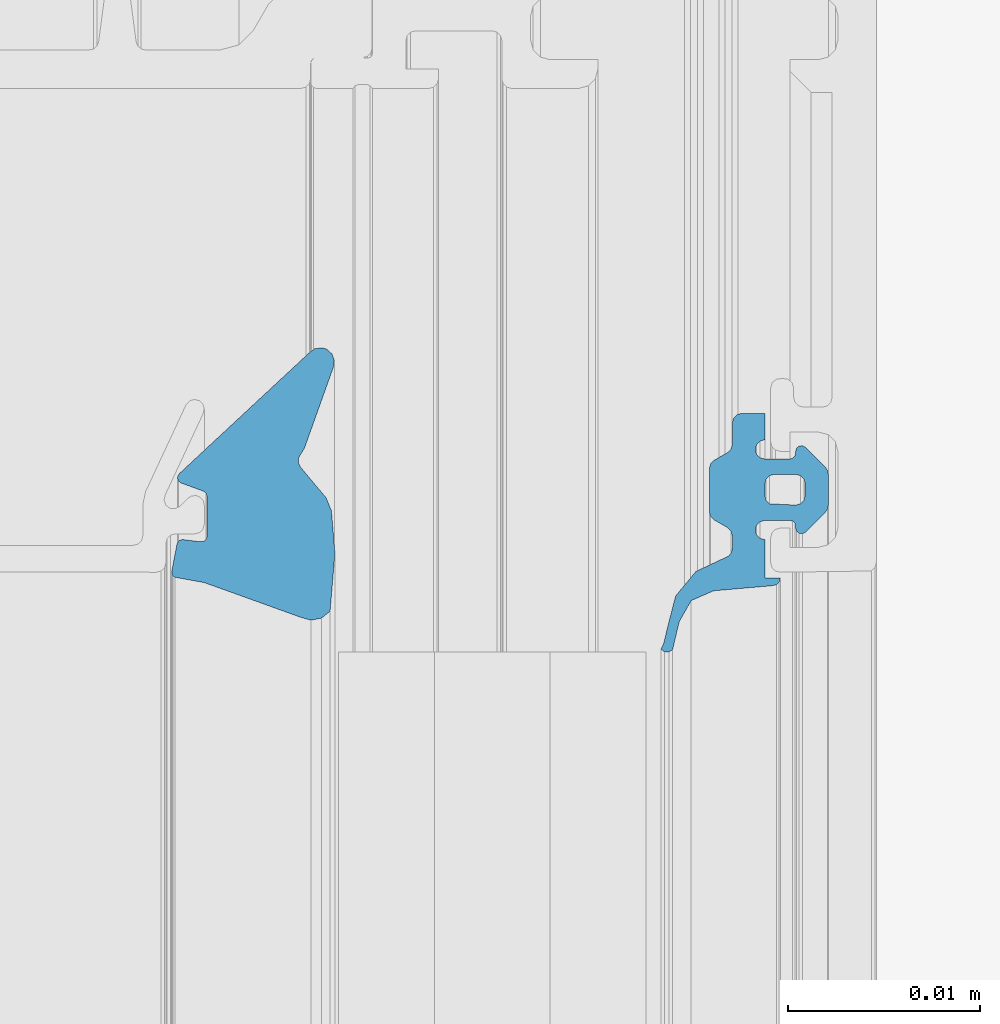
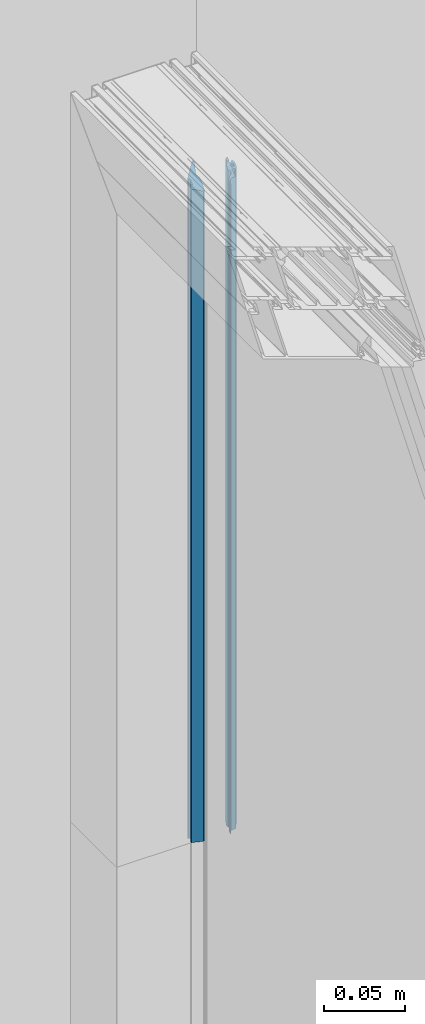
# One storey, part 29 of 89: 1 building element part, 2 elements without a shape of their own.
"""IFC2X3 building model written with IfcOpenShell, lengths in millimetres."""

from ifc_helpers import new_model, entity, si_unit, converted_unit, derived_unit, money_unit, direction, frame, origin_with_axes, place, context, subcontext, project, spatial, faceted_brep, source, transform, mapped, material, type_object, element, aggregate, save


model = new_model("IFC2X3")

# Units and contexts
model_context = context("Model", 3, precision=0.01, world=origin_with_axes(), true_north=direction((0.0, 1.0)))
body_context = subcontext(model_context, "Body", "Model", "MODEL_VIEW")
ifc_project = project(units=[si_unit("LENGTHUNIT", "METRE", prefix="MILLI"), si_unit("AREAUNIT", "SQUARE_METRE"), si_unit("VOLUMEUNIT", "CUBIC_METRE"), converted_unit("PLANEANGLEUNIT", "DEGREE", entity("IfcPlaneAngleMeasure", 0.0174532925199), si_unit("PLANEANGLEUNIT", "RADIAN"), dimensions=[0, 0, 0, 0, 0, 0, 0]), si_unit("SOLIDANGLEUNIT", "STERADIAN"), money_unit("EUR"), converted_unit("TIMEUNIT", "Year", entity("IfcTimeMeasure", 31556926.0), si_unit("TIMEUNIT", "SECOND"), dimensions=[0, 0, 1, 0, 0, 0, 0]), si_unit("MASSUNIT", "GRAM", prefix="KILO"), si_unit("THERMODYNAMICTEMPERATUREUNIT", "DEGREE_CELSIUS"), si_unit("LUMINOUSINTENSITYUNIT", "LUMEN"), si_unit("ENERGYUNIT", "JOULE", prefix="MEGA"), derived_unit("THERMALCONDUCTANCEUNIT", [(si_unit("POWERUNIT", "WATT"), 1), (si_unit("LENGTHUNIT", "METRE"), -1), (si_unit("THERMODYNAMICTEMPERATUREUNIT", "KELVIN"), -1)]), derived_unit("SPECIFICHEATCAPACITYUNIT", [(si_unit("ENERGYUNIT", "JOULE"), 1), (si_unit("MASSUNIT", "GRAM", prefix="KILO"), -1), (si_unit("THERMODYNAMICTEMPERATUREUNIT", "KELVIN"), -1)]), derived_unit("MASSDENSITYUNIT", [(si_unit("MASSUNIT", "GRAM", prefix="KILO"), 1), (si_unit("VOLUMEUNIT", "CUBIC_METRE"), -1)])], contexts=[model_context])

# Site, building, storey
site_placement = place(None, origin_with_axes())
site = spatial("IfcSite", under=ifc_project, at=site_placement, Name="Puškini 31, Narva", CompositionType="ELEMENT")
building_placement = place(site_placement, origin_with_axes())
building = spatial("IfcBuilding", under=site, at=building_placement, Name="Narva Riigigümnaasium", CompositionType="ELEMENT")
storey_placement = place(building_placement, frame((0.0, 0.0, -3300.0), z_axis=(0.0, 0.0, 1.0), x_axis=(1.0, 0.0, 0.0)))
storey = spatial("IfcBuildingStorey", under=building, at=storey_placement, Name="1.korrus -3.3", CompositionType="ELEMENT", Elevation=-3300.0)

# Curtain wall, member, building element part
curtain_wall_type = type_object("IfcCurtainWallType", Name="Curtain Wall Type", PredefinedType="NOTDEFINED")
curtain_wall_placement = place(storey_placement, frame((34855.0104166, 221770.599999, -2.45869391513e-05), z_axis=(0.0, 0.0, 1.0), x_axis=(1.0, 0.0, 0.0)))
curtain_wall = element("IfcCurtainWall", 1, at=curtain_wall_placement, inside=storey, type_object=curtain_wall_type, Name="G-SKLF-08")
member_type = type_object("IfcMemberType", Name="61 x 45", PredefinedType="MULLION")
member_placement = place(curtain_wall_placement, frame((-0.00873769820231, 2029.40000644, 2400.00002459), z_axis=(0.0, 0.0, 1.0), x_axis=(4.3055573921e-06, -0.999999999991, 0.0)))
member = element("IfcMember", 2, at=member_placement, type_object=member_type, Name="G-SKLF-08-raam", ObjectType="MULLION")
aggregate(curtain_wall, [member])
ifc_material = material(Name="Membraan - Veekindel")
shared_shape = source(origin_with_axes(), body_context, "Body", "Brep", [
    faceted_brep([(61.0413385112, 34.3890442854, -1.80386372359e-07), (59.5800222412, 34.73794757, -1.80386372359e-07), (59.5800222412, 34.73794757, 490.419961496), (61.0413385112, 34.3890442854, 488.958645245), (61.1536677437, 34.1934467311, -1.80386372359e-07), (61.1423164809, 33.9681748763, -1.80386372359e-07), (61.0108941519, 33.784859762, -1.80386372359e-07), (60.7381535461, 33.9217644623, -1.80386372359e-07), (59.8409257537, 34.1343131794, -1.80386372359e-07), (58.2346494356, 34.5489145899, -1.80386372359e-07), (56.9567944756, 35.6067920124, -1.80386372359e-07), (56.2495873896, 37.1074172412, -1.80386372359e-07), (56.1542959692, 37.3107917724, -1.80386372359e-07), (55.9795989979, 37.4519392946, -1.80386372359e-07), (55.7607444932, 37.5023809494, -1.80386372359e-07), (55.1093263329, 37.5023809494, -1.80386372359e-07), (54.8593263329, 37.4353936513, -1.80386372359e-07), (54.676313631, 37.2523809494, -1.80386372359e-07), (54.2721684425, 36.5523809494, -1.80386372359e-07), (54.0891557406, 36.3693682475, -1.80386372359e-07), (53.8391557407, 36.3023809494, -1.80386372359e-07), (51.602145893, 36.3023809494, -1.80386372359e-07), (51.352145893, 36.3693682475, -1.80386372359e-07), (51.1691331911, 36.5523809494, -1.80386372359e-07), (50.7649880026, 37.2523809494, -1.80386372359e-07), (50.5819753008, 37.4353936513, -1.80386372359e-07), (50.3319753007, 37.5023809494, -1.80386372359e-07), (49.2206527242, 37.5023809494, -1.80386372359e-07), (48.9706527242, 37.5693682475, -1.80386372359e-07), (48.7876400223, 37.7523809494, -1.80386372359e-07), (48.7206527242, 38.0023809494, -1.80386372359e-07), (48.7206527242, 39.1999494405, -1.80386372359e-07), (50.10004, 39.1999494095, -1.80386372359e-07), (50.1670287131, 38.9499497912, -1.80386372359e-07), (50.3500424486, 38.7669381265, -1.80386372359e-07), (50.6000428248, 38.699952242, -1.80386372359e-07), (50.8500424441, 38.7669409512, -1.80386372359e-07), (51.0330541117, 38.9499546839, -1.80386372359e-07), (51.10004, 39.1999550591, -1.80386372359e-07), (51.10004, 40.4999366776, -1.80386372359e-07), (51.0598476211, 40.6499366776, -1.80386372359e-07), (50.95004, 40.7597442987, -1.80386372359e-07), (50.80004, 40.7999366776, -1.80386372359e-07), (50.7000457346, 40.7999366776, -1.80386372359e-07), (50.5334025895, 40.8504763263, -1.80386372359e-07), (50.4229059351, 40.9850671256, -1.80386372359e-07), (50.4057850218, 41.1583618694, -1.80386372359e-07), (50.4878083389, 41.3119729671, -1.80386372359e-07), (51.5281601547, 42.3533311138, -1.80386372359e-07), (51.6904310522, 42.4618421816, -1.80386372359e-07), (51.8818844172, 42.4999486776, -1.80386372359e-07), (53.517932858, 42.4999486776, -1.80386372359e-07), (53.7093558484, 42.4618547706, -1.80386372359e-07), (53.8716106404, 42.3533776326, -1.80386372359e-07), (54.9122350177, 41.3120206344, -1.80386372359e-07), (54.9942836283, 41.1584047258, -1.80386372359e-07), (54.9771753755, 40.9850924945, -1.80386372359e-07), (54.866675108, 40.850483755, -1.80386372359e-07), (54.7000173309, 40.7999366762, -1.80386372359e-07), (54.6000210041, 40.7999366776, -1.80386372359e-07), (54.4500210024, 40.7597443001, -1.80386372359e-07), (54.3402133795, 40.6499366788, -1.80386372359e-07), (54.300021, 40.4999366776, -1.80386372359e-07), (54.300021, 39.1999606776, -1.80386372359e-07), (54.3670082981, 38.9499606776, -1.80386372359e-07), (54.5500210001, 38.7669479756, -1.80386372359e-07), (54.8000210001, 38.6999606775, -1.80386372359e-07), (55.0500210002, 38.7669479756, -1.80386372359e-07), (55.2330337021, 38.9499606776, -1.80386372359e-07), (55.3000210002, 39.1999606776, -1.80386372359e-07), (57.3000022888, 39.1999494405, -1.80386372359e-07), (57.3000022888, 39.9999846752, -1.80386372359e-07), (57.5000161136, 39.946391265, -1.80386372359e-07), (57.6464370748, 39.799971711, -1.80386372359e-07), (57.7000324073, 39.5999584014, -1.80386372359e-07), (57.9693613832, 36.5265882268, -1.80386372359e-07), (58.4755028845, 35.3628499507, -1.80386372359e-07), (53.5000340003, 40.7999553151, -1.80386372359e-07), (53.4330491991, 41.0499459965, -1.80386372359e-07), (53.2500433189, 41.2329518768, -1.80386372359e-07), (53.0000526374, 41.299936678, -1.80386372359e-07), (52.4000083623, 41.299936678, -1.80386372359e-07), (52.150017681, 41.2329518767, -1.80386372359e-07), (51.9670118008, 41.0499459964, -1.80386372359e-07), (51.9000269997, 40.799955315, -1.80386372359e-07), (51.9000269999, 39.6999268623, -1.80386372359e-07), (51.9670129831, 39.4499317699, -1.80386372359e-07), (52.1500220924, 39.2669226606, -1.80386372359e-07), (52.4000171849, 39.1999366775, -1.80386372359e-07), (53.0000438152, 39.1999366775, -1.80386372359e-07), (53.2500389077, 39.2669226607, -1.80386372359e-07), (53.433048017, 39.44993177, -1.80386372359e-07), (58.4755028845, 35.3628499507, 491.524480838), (57.9693613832, 36.5265882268, 492.030622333), (57.7000324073, 39.5999584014, 492.299951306), (57.6464370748, 39.799971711, 492.353546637), (57.5000161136, 39.946391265, 492.499967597), (57.3000022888, 39.9999846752, 492.699981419), (57.3000022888, 39.1999494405, 492.699981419), (55.3000210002, 39.1999606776, 494.699962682), (55.2330337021, 38.9499606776, 494.766949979), (55.0500210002, 38.7669479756, 494.949962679), (54.8000210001, 38.6999606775, 495.199962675), (54.5500210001, 38.7669479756, 495.449962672), (54.3670082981, 38.9499606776, 495.632975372), (54.300021, 39.1999606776, 495.699962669), (54.300021, 40.4999366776, 495.699962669), (54.3402133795, 40.6499366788, 495.65977029), (54.4500210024, 40.7597443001, 495.549962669), (54.6000210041, 40.7999366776, 495.399962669), (54.7000173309, 40.7999366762, 495.299966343), (54.866675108, 40.850483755, 495.133308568), (54.9771753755, 40.9850924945, 495.022808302), (54.9942836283, 41.1584047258, 495.00570005), (54.9122350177, 41.3120206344, 495.087748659), (53.8716106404, 42.3533776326, 496.128373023), (53.7093558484, 42.4618547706, 496.290627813), (53.517932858, 42.4999486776, 496.482050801), (51.8818844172, 42.4999486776, 498.118099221), (51.6904310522, 42.4618421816, 498.309552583), (51.5281601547, 42.3533311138, 498.471823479), (50.4878083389, 41.3119729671, 499.512175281), (50.4057850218, 41.1583618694, 499.594198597), (50.4229059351, 40.9850671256, 499.577077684), (50.5334025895, 40.8504763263, 499.466581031), (50.7000457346, 40.7999366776, 499.299937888), (50.80004, 40.7999366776, 499.199943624), (50.95004, 40.7597442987, 499.049943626), (51.0598476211, 40.6499366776, 498.940136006), (51.10004, 40.4999366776, 498.899943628), (51.10004, 39.1999550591, 498.899943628), (51.0330541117, 38.9499546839, 498.966929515), (50.8500424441, 38.7669409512, 499.14994118), (50.6000428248, 38.699952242, 499.399940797), (50.3500424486, 38.7669381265, 499.649941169), (50.1670287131, 38.9499497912, 499.832954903), (50.10004, 39.1999494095, 499.899943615), (48.7206527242, 39.1999494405, 501.279330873), (48.7206527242, 38.0023809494, 501.279330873), (48.7876400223, 37.7523809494, 501.212343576), (48.9706527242, 37.5693682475, 501.029330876), (49.2206527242, 37.5023809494, 500.779330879), (50.3319753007, 37.5023809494, 499.668008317), (50.5819753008, 37.4353936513, 499.41800832), (50.7649880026, 37.2523809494, 499.234995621), (51.1691331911, 36.5523809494, 498.830850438), (51.352145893, 36.3693682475, 498.647837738), (51.602145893, 36.3023809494, 498.397837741), (53.8391557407, 36.3023809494, 496.160827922), (54.0891557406, 36.3693682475, 495.910827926), (54.2721684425, 36.5523809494, 495.727815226), (54.676313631, 37.2523809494, 495.323670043), (54.8593263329, 37.4353936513, 495.140657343), (55.1093263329, 37.5023809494, 494.890657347), (55.7607444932, 37.5023809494, 494.239239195), (55.9795989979, 37.4519392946, 494.020384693), (56.1542959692, 37.3107917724, 493.845687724), (56.2495873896, 37.1074172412, 493.750396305), (56.9567944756, 35.6067920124, 493.043189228), (58.2346494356, 34.5489145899, 491.765334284), (59.8409257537, 34.1343131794, 490.159057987), (60.7381535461, 33.9217644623, 489.261830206), (61.0108941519, 33.784859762, 488.989089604), (61.1423164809, 33.9681748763, 488.857667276), (61.1536677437, 34.1934467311, 488.846316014), (53.5000340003, 40.7999553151, 496.499949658), (53.433048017, 39.44993177, 496.566935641), (53.2500389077, 39.2669226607, 496.749944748), (53.0000438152, 39.1999366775, 496.999939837), (52.4000171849, 39.1999366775, 497.59996646), (52.1500220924, 39.2669226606, 497.849961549), (51.9670129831, 39.4499317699, 498.032970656), (51.9000269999, 39.6999268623, 498.099956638), (51.9000269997, 40.799955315, 498.099956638), (51.9670118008, 41.0499459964, 498.032971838), (52.150017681, 41.2329518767, 497.84996596), (52.4000083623, 41.299936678, 497.599975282), (53.0000526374, 41.299936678, 496.999931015), (53.2500433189, 41.2329518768, 496.749940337), (53.4330491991, 41.0499459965, 496.566934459)], [[[0, 1, 2, 3]], [[0, 4, 5, 6, 7, 8, 9, 10, 11, 12, 13, 14, 15, 16, 17, 18, 19, 20, 21, 22, 23, 24, 25, 26, 27, 28, 29, 30, 31, 32, 33, 34, 35, 36, 37, 38, 39, 40, 41, 42, 43, 44, 45, 46, 47, 48, 49, 50, 51, 52, 53, 54, 55, 56, 57, 58, 59, 60, 61, 62, 63, 64, 65, 66, 67, 68, 69, 70, 71, 72, 73, 74, 75, 76, 1], [77, 78, 79, 80, 81, 82, 83, 84, 85, 86, 87, 88, 89, 90, 91]], [[1, 76, 92, 2]], [[3, 2, 92, 93, 94, 95, 96, 97, 98, 99, 100, 101, 102, 103, 104, 105, 106, 107, 108, 109, 110, 111, 112, 113, 114, 115, 116, 117, 118, 119, 120, 121, 122, 123, 124, 125, 126, 127, 128, 129, 130, 131, 132, 133, 134, 135, 136, 137, 138, 139, 140, 141, 142, 143, 144, 145, 146, 147, 148, 149, 150, 151, 152, 153, 154, 155, 156, 157, 158, 159, 160, 161, 162, 163, 164], [165, 166, 167, 168, 169, 170, 171, 172, 173, 174, 175, 176, 177, 178, 179]], [[4, 0, 3, 164]], [[5, 4, 164, 163]], [[6, 5, 163, 162]], [[7, 6, 162, 161]], [[8, 7, 161, 160]], [[9, 8, 160, 159]], [[10, 9, 159, 158]], [[11, 10, 158, 157]], [[12, 11, 157, 156]], [[13, 12, 156, 155]], [[14, 13, 155, 154]], [[15, 14, 154, 153]], [[16, 15, 153, 152]], [[17, 16, 152, 151]], [[18, 17, 151, 150]], [[19, 18, 150, 149]], [[20, 19, 149, 148]], [[21, 20, 148, 147]], [[22, 21, 147, 146]], [[23, 22, 146, 145]], [[24, 23, 145, 144]], [[25, 24, 144, 143]], [[26, 25, 143, 142]], [[27, 26, 142, 141]], [[28, 27, 141, 140]], [[29, 28, 140, 139]], [[30, 29, 139, 138]], [[31, 30, 138, 137]], [[32, 31, 137, 136]], [[33, 32, 136, 135]], [[34, 33, 135, 134]], [[35, 34, 134, 133]], [[36, 35, 133, 132]], [[37, 36, 132, 131]], [[38, 37, 131, 130]], [[39, 38, 130, 129]], [[40, 39, 129, 128]], [[41, 40, 128, 127]], [[42, 41, 127, 126]], [[43, 42, 126, 125]], [[44, 43, 125, 124]], [[45, 44, 124, 123]], [[46, 45, 123, 122]], [[47, 46, 122, 121]], [[48, 47, 121, 120]], [[49, 48, 120, 119]], [[50, 49, 119, 118]], [[51, 50, 118, 117]], [[52, 51, 117, 116]], [[53, 52, 116, 115]], [[54, 53, 115, 114]], [[55, 54, 114, 113]], [[56, 55, 113, 112]], [[57, 56, 112, 111]], [[58, 57, 111, 110]], [[59, 58, 110, 109]], [[60, 59, 109, 108]], [[61, 60, 108, 107]], [[62, 61, 107, 106]], [[63, 62, 106, 105]], [[64, 63, 105, 104]], [[65, 64, 104, 103]], [[66, 65, 103, 102]], [[67, 66, 102, 101]], [[68, 67, 101, 100]], [[69, 68, 100, 99]], [[70, 69, 99, 98]], [[71, 70, 98, 97]], [[72, 71, 97, 96]], [[73, 72, 96, 95]], [[74, 73, 95, 94]], [[75, 74, 94, 93]], [[76, 75, 93, 92]], [[78, 77, 165, 179]], [[79, 78, 179, 178]], [[80, 79, 178, 177]], [[81, 80, 177, 176]], [[82, 81, 176, 175]], [[83, 82, 175, 174]], [[84, 83, 174, 173]], [[85, 84, 173, 172]], [[86, 85, 172, 171]], [[87, 86, 171, 170]], [[88, 87, 170, 169]], [[89, 88, 169, 168]], [[90, 89, 168, 167]], [[91, 90, 167, 166]], [[77, 91, 166, 165]]]),
    faceted_brep([(59.0307115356, 16.554149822, -1.80386372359e-07), (55.9926715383, 16.8063498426, -1.80386372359e-07), (55.9926715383, 16.8063498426, 494.007312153), (59.0307115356, 16.554149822, 490.969272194), (59.3884652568, 16.1092618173, -1.80386372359e-07), (59.5001582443, 15.5494067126, -1.80386372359e-07), (59.3405112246, 15.0012955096, -1.80386372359e-07), (57.5418652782, 10.0035930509, -1.80386372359e-07), (57.2632233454, 8.46932121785, -1.80386372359e-07), (57.1824204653, 8.36745448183, -1.80386372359e-07), (57.0661058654, 8.3093438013, -1.80386372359e-07), (56.9361285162, 8.30590490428, -1.80386372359e-07), (55.5361285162, 8.57803733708, -1.80386372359e-07), (55.4168250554, 8.62997353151, -1.80386372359e-07), (55.3307332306, 8.72753828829, -1.80386372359e-07), (55.2940485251, 8.85237785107, -1.80386372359e-07), (55.4099827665, 9.81272116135, -1.80386372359e-07), (55.3838261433, 9.9780831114, -1.80386372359e-07), (55.2731258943, 10.1036784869, -1.80386372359e-07), (55.1123574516, 10.1503930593, -1.80386372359e-07), (53.0580290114, 10.1503930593, -1.80386372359e-07), (52.8859560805, 10.0961386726, -1.80386372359e-07), (52.7761212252, 9.95299910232, -1.80386372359e-07), (52.3556584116, 8.79778701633, -1.80386372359e-07), (52.2574645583, 8.66326410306, -1.80386372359e-07), (52.1026310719, 8.60190419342, -1.80386372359e-07), (51.938943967, 8.6326446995, -1.80386372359e-07), (51.8169217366, 8.74599822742, -1.80386372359e-07), (45.6142070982, 15.4144760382, -1.80386372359e-07), (45.3418968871, 15.7688623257, -1.80386372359e-07), (45.3195226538, 16.2152275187, -1.80386372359e-07), (45.3889077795, 16.3899097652, -1.80386372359e-07), (45.6241929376, 16.6482027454, -1.80386372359e-07), (45.950966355, 16.7718696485, -1.80386372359e-07), (46.298307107, 16.7340705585, -1.80386372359e-07), (50.5536994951, 15.2121179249, -1.80386372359e-07), (50.8437237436, 15.0307134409, -1.80386372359e-07), (51.0558924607, 14.9074036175, -1.80386372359e-07), (51.3011765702, 14.8998814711, -1.80386372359e-07), (51.5205025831, 15.0099586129, -1.80386372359e-07), (53.1225200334, 16.3483062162, -1.80386372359e-07), (53.7899070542, 16.6230039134, -1.80386372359e-07), (53.7899070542, 16.6230039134, 496.210076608), (53.1225200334, 16.3483062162, 496.87746362), (51.5205025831, 15.0099586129, 498.47948105), (51.3011765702, 14.8998814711, 498.69880706), (51.0558924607, 14.9074036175, 498.944091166), (50.8437237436, 15.0307134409, 499.156259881), (50.5536994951, 15.2121179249, 499.446284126), (46.298307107, 16.7340705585, 503.701676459), (45.950966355, 16.7718696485, 504.049017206), (45.6241929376, 16.6482027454, 504.37579062), (45.3889077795, 16.3899097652, 504.611075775), (45.3195226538, 16.2152275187, 504.680460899), (45.3418968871, 15.7688623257, 504.658086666), (45.6142070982, 15.4144760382, 504.385776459), (51.8169217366, 8.74599822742, 498.1830619), (51.938943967, 8.6326446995, 498.061039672), (52.1026310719, 8.60190419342, 497.897352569), (52.2574645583, 8.66326410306, 497.742519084), (52.3556584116, 8.79778701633, 497.644325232), (52.7761212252, 9.95299910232, 497.223862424), (52.8859560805, 10.0961386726, 497.11402757), (53.0580290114, 10.1503930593, 496.941954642), (55.1123574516, 10.1503930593, 494.887626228), (55.2731258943, 10.1036784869, 494.726857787), (55.3838261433, 9.9780831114, 494.61615754), (55.4099827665, 9.81272116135, 494.590000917), (55.2940485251, 8.85237785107, 494.705935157), (55.3307332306, 8.72753828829, 494.669250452), (55.4168250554, 8.62997353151, 494.583158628), (55.5361285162, 8.57803733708, 494.463855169), (56.9361285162, 8.30590490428, 493.063855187), (57.0661058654, 8.3093438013, 492.933877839), (57.1824204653, 8.36745448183, 492.817563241), (57.2632233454, 8.46932121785, 492.736760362), (57.5418652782, 10.0035930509, 492.458118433), (59.3405112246, 15.0012955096, 490.659472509), (59.5001582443, 15.5494067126, 490.499825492), (59.3884652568, 16.1092618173, 490.611518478)], [[[0, 1, 2, 3]], [[0, 4, 5, 6, 7, 8, 9, 10, 11, 12, 13, 14, 15, 16, 17, 18, 19, 20, 21, 22, 23, 24, 25, 26, 27, 28, 29, 30, 31, 32, 33, 34, 35, 36, 37, 38, 39, 40, 41, 1]], [[1, 41, 42, 2]], [[3, 2, 42, 43, 44, 45, 46, 47, 48, 49, 50, 51, 52, 53, 54, 55, 56, 57, 58, 59, 60, 61, 62, 63, 64, 65, 66, 67, 68, 69, 70, 71, 72, 73, 74, 75, 76, 77, 78, 79]], [[4, 0, 3, 79]], [[5, 4, 79, 78]], [[6, 5, 78, 77]], [[7, 6, 77, 76]], [[8, 7, 76, 75]], [[9, 8, 75, 74]], [[10, 9, 74, 73]], [[11, 10, 73, 72]], [[12, 11, 72, 71]], [[13, 12, 71, 70]], [[14, 13, 70, 69]], [[15, 14, 69, 68]], [[16, 15, 68, 67]], [[17, 16, 67, 66]], [[18, 17, 66, 65]], [[19, 18, 65, 64]], [[20, 19, 64, 63]], [[21, 20, 63, 62]], [[22, 21, 62, 61]], [[23, 22, 61, 60]], [[24, 23, 60, 59]], [[25, 24, 59, 58]], [[26, 25, 58, 57]], [[27, 26, 57, 56]], [[28, 27, 56, 55]], [[29, 28, 55, 54]], [[30, 29, 54, 53]], [[31, 30, 53, 52]], [[32, 31, 52, 51]], [[33, 32, 51, 50]], [[34, 33, 50, 49]], [[35, 34, 49, 48]], [[36, 35, 48, 47]], [[37, 36, 47, 46]], [[38, 37, 46, 45]], [[39, 38, 45, 44]], [[40, 39, 44, 43]], [[41, 40, 43, 42]]]),
])
building_element_part_placement = place(member_placement, origin_with_axes())
building_element_part = element("IfcBuildingElementPart", 3, at=building_element_part_placement, material=ifc_material, Name="Membraan - Veekindel", context=body_context, shape_type="MappedRepresentation", body=[
    mapped(shared_shape, transform((0.0, 0.0, 0.0))),
])
aggregate(member, [building_element_part])

save(model, "model.ifc")
